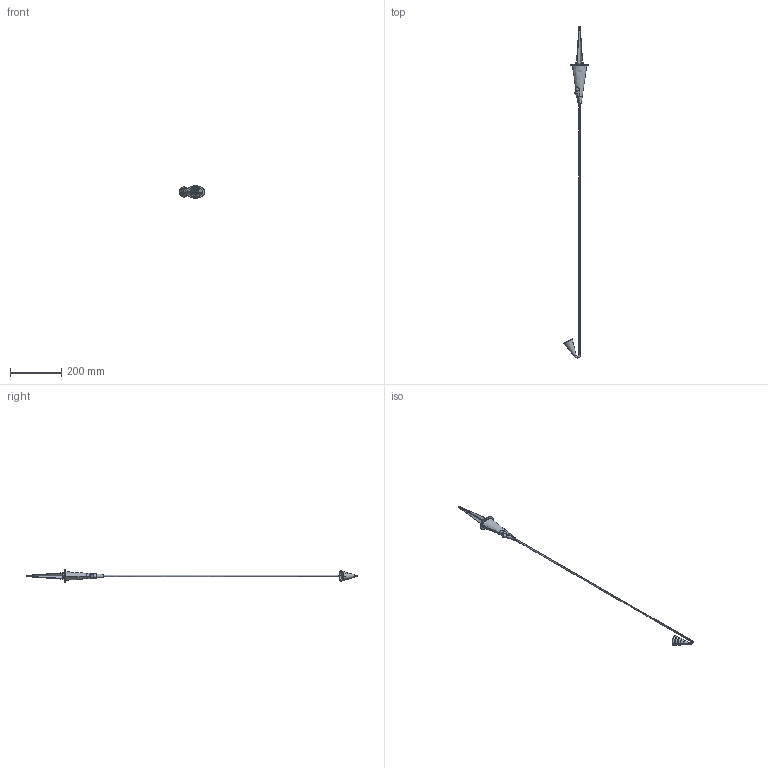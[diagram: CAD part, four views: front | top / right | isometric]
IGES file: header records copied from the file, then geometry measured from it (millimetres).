
Start section: Comment
Global section: file name: 4625.igs; native system:  By UGS Corp.; preprocessor: XPlus GENERIC/IGES 3.0; author: Author; organization: Title; date: 20110609.135052; units: millimetre
Bounding box: 98.33 x 1291 x 48.72 mm (x, y, z)
Surface area: 101527.3 mm2 (no closed solid volume)
Topology: 0 solids, 0 shells, 444 faces, 2536 edges, 2528 vertices
Faces by surface type: bspline 444
